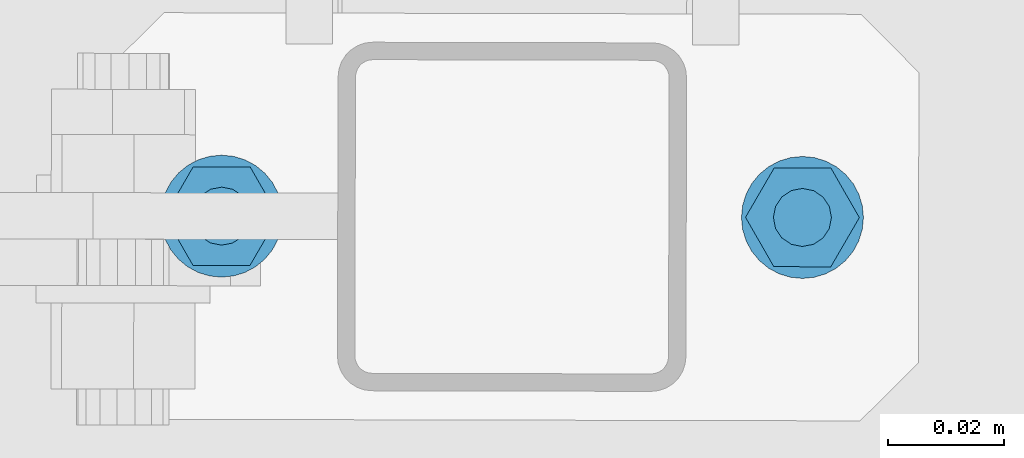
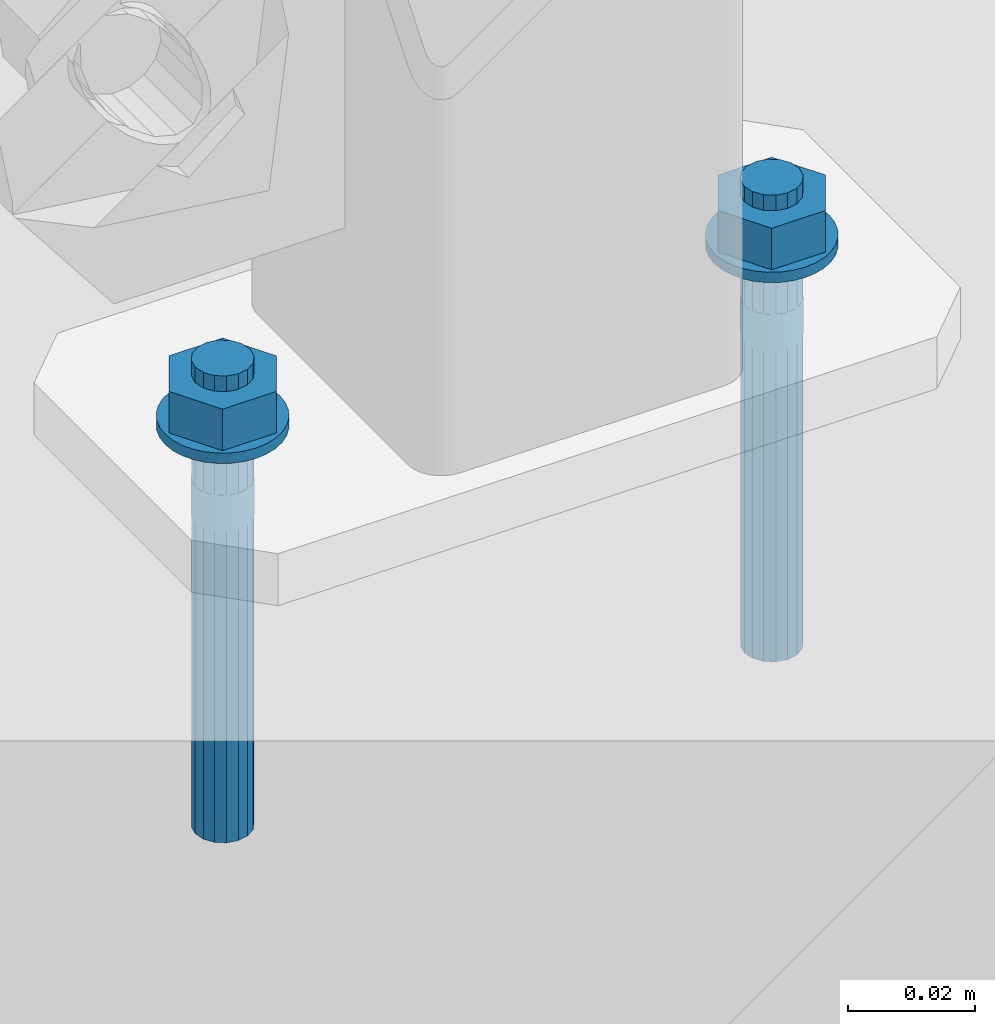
# One storey, part 208 of 288: 2 mechanical fasteners.
"""IFC2X3 building model written with IfcOpenShell, lengths in millimetres."""

from ifc_helpers import new_model, entity, si_unit, converted_unit, origin_with_axes, place, context, project, spatial, faceted_brep, element, save


model = new_model("IFC2X3")

# Units and contexts
model_context = context("Model", 3, precision=1e-09, world=origin_with_axes())
ifc_project = project(units=[si_unit("LENGTHUNIT", "METRE", prefix="MILLI"), si_unit("AREAUNIT", "SQUARE_METRE"), si_unit("VOLUMEUNIT", "CUBIC_METRE"), converted_unit("PLANEANGLEUNIT", "DEGREE", entity("IfcPlaneAngleMeasure", 0.01745329), si_unit("PLANEANGLEUNIT", "RADIAN"), dimensions=[0, 0, 0, 0, 0, 0, 0])], contexts=[model_context])

# Site, building, storey
site_placement = place(None, origin_with_axes())
site = spatial("IfcSite", under=ifc_project, at=site_placement, Name="Remont ?wietlik?w nad MC w NCPP w Opolu", CompositionType="ELEMENT")
building_placement = place(site_placement, origin_with_axes())
building = spatial("IfcBuilding", under=site, at=building_placement, Name="Konstrukcja 1", CompositionType="ELEMENT")
storey_placement = place(building_placement, origin_with_axes())
storey = spatial("IfcBuildingStorey", under=building, at=storey_placement, Name="Default Storey", CompositionType="ELEMENT", Elevation=0.0)

# Mechanical fasteners
mechanical_fastener_1_placement = place(None, origin_with_axes())
element("IfcMechanicalFastener", 1, at=mechanical_fastener_1_placement, inside=storey, ObjectType="Anchor_Bolt", NominalDiameter=10.0, NominalLength=90.0, context=model_context, shape_type="Brep", body=[
    faceted_brep([(7066.299040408, -130.431024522, 12.00000014), (7066.299040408, -130.431024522, 10.00000014), (7064.250140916, -130.628145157, 10.00000014), (7064.250140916, -130.628145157, 12.00000014), (7062.279066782, -131.221198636, 10.00000014), (7062.279066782, -131.221198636, 12.00000014), (7060.461565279, -132.187394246, 10.00000014), (7060.461565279, -132.187394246, 12.00000014), (7058.867481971, -133.489601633, 10.00000014), (7058.867481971, -133.489601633, 12.00000014), (7057.558076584, -135.077777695, 10.00000014), (7057.558076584, -135.077777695, 12.00000014), (7056.583668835, -136.890889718, 10.00000014), (7056.583668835, -136.890889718, 12.00000014), (7055.981704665, -138.859260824, 10.00000014), (7055.981704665, -138.859260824, 12.00000014), (7055.775317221, -140.907247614, 10.00000014), (7055.775317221, -140.907247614, 12.00000014), (7055.972437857, -142.956147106, 10.00000014), (7055.972437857, -142.956147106, 12.00000014), (7056.565491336, -144.92722124, 10.00000014), (7056.565491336, -144.92722124, 12.00000014), (7057.531686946, -146.744722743, 10.00000014), (7057.531686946, -146.744722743, 12.00000014), (7058.833894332, -148.338806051, 10.00000014), (7058.833894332, -148.338806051, 12.00000014), (7060.422070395, -149.648211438, 10.00000014), (7060.422070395, -149.648211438, 12.00000014), (7062.235182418, -150.622619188, 10.00000014), (7062.235182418, -150.622619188, 12.00000014), (7064.203553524, -151.224583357, 10.00000014), (7064.203553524, -151.224583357, 12.00000014), (7066.251540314, -151.430970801, 10.00000014), (7066.251540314, -151.430970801, 12.00000014), (7068.300439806, -151.233850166, 10.00000014), (7068.300439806, -151.233850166, 12.00000014), (7070.27151394, -150.640796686, 10.00000014), (7070.27151394, -150.640796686, 12.00000014), (7072.089015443, -149.674601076, 10.00000014), (7072.089015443, -149.674601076, 12.00000014), (7073.683098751, -148.37239369, 10.00000014), (7073.683098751, -148.37239369, 12.00000014), (7074.992504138, -146.784217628, 10.00000014), (7074.992504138, -146.784217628, 12.00000014), (7075.966911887, -144.971105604, 10.00000014), (7075.966911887, -144.971105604, 12.00000014), (7076.568876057, -143.002734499, 10.00000014), (7076.568876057, -143.002734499, 12.00000014), (7076.775263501, -140.954747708, 10.00000014), (7076.775263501, -140.954747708, 12.00000014), (7076.578142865, -138.905848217, 10.00000014), (7076.578142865, -138.905848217, 12.00000014), (7075.985089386, -136.934774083, 10.00000014), (7075.985089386, -136.934774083, 12.00000014), (7075.018893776, -135.11727258, 10.00000014), (7075.018893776, -135.11727258, 12.00000014), (7073.71668639, -133.523189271, 10.00000014), (7073.71668639, -133.523189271, 12.00000014), (7072.128510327, -132.213783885, 10.00000014), (7072.128510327, -132.213783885, 12.00000014), (7070.315398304, -131.239376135, 10.00000014), (7070.315398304, -131.239376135, 12.00000014), (7068.347027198, -130.637411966, 10.00000014), (7068.347027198, -130.637411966, 12.00000014)], [[[0, 1, 2, 3]], [[3, 2, 4, 5]], [[5, 4, 6, 7]], [[7, 6, 8, 9]], [[9, 8, 10, 11]], [[11, 10, 12, 13]], [[13, 12, 14, 15]], [[15, 14, 16, 17]], [[17, 16, 18, 19]], [[19, 18, 20, 21]], [[21, 20, 22, 23]], [[23, 22, 24, 25]], [[25, 24, 26, 27]], [[27, 26, 28, 29]], [[29, 28, 30, 31]], [[31, 30, 32, 33]], [[33, 32, 34, 35]], [[35, 34, 36, 37]], [[37, 36, 38, 39]], [[39, 38, 40, 41]], [[41, 40, 42, 43]], [[43, 42, 44, 45]], [[45, 44, 46, 47]], [[47, 46, 48, 49]], [[49, 48, 50, 51]], [[51, 50, 52, 53]], [[53, 52, 54, 55]], [[55, 54, 56, 57]], [[57, 56, 58, 59]], [[59, 58, 60, 61]], [[61, 60, 62, 63]], [[63, 62, 1, 0]], [[0, 3, 5, 7, 9, 11, 13, 15, 17, 19, 21, 23, 25, 27, 29, 31, 33, 35, 37, 39, 41, 43, 45, 47, 49, 51, 53, 55, 57, 59, 61, 63]], [[1, 62, 60, 58, 56, 54, 52, 50, 48, 46, 44, 42, 40, 38, 36, 34, 32, 30, 28, 26, 24, 22, 20, 18, 16, 14, 12, 10, 8, 6, 4, 2]]]),
    faceted_brep([(7061.356105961, -149.406941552, 12.00000014), (7061.356105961, -149.406941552, 20.00000014), (7056.475315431, -140.908830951, 20.00000014), (7056.475315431, -140.908830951, 12.00000014), (7061.39449983, -132.43288706, 20.00000014), (7061.39449983, -132.43288706, 12.00000014), (7071.194474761, -132.45505377, 20.00000014), (7071.194474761, -132.45505377, 12.00000014), (7076.075265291, -140.953164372, 20.00000014), (7076.075265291, -140.953164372, 12.00000014), (7071.156080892, -149.429108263, 20.00000014), (7071.156080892, -149.429108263, 12.00000014)], [[[0, 1, 2, 3]], [[3, 2, 4, 5]], [[5, 4, 6, 7]], [[7, 6, 8, 9]], [[9, 8, 10, 11]], [[11, 10, 1, 0]], [[4, 2, 1, 10, 8, 6]], [[0, 3, 5, 7, 9, 11]]]),
    faceted_brep([(7066.286599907, -135.931010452, 23.00000014), (7066.286599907, -135.931010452, 20.00000014), (7064.372326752, -136.30728384, 20.00000014), (7064.372326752, -136.30728384, 23.00000014), (7062.747762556, -137.387475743, 20.00000014), (7062.747762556, -137.387475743, 23.00000014), (7061.660232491, -139.007136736, 20.00000014), (7061.660232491, -139.007136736, 23.00000014), (7061.275303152, -140.919688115, 20.00000014), (7061.275303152, -140.919688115, 23.00000014), (7061.651576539, -142.83396127, 20.00000014), (7061.651576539, -142.83396127, 23.00000014), (7062.731768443, -144.458525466, 20.00000014), (7062.731768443, -144.458525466, 23.00000014), (7064.351429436, -145.546055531, 20.00000014), (7064.351429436, -145.546055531, 23.00000014), (7066.263980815, -145.930984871, 20.00000014), (7066.263980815, -145.930984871, 23.00000014), (7068.17825397, -145.554711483, 20.00000014), (7068.17825397, -145.554711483, 23.00000014), (7069.802818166, -144.47451958, 20.00000014), (7069.802818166, -144.47451958, 23.00000014), (7070.890348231, -142.854858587, 20.00000014), (7070.890348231, -142.854858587, 23.00000014), (7071.27527757, -140.942307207, 20.00000014), (7071.27527757, -140.942307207, 23.00000014), (7070.899004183, -139.028034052, 20.00000014), (7070.899004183, -139.028034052, 23.00000014), (7069.818812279, -137.403469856, 20.00000014), (7069.818812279, -137.403469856, 23.00000014), (7068.199151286, -136.315939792, 20.00000014), (7068.199151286, -136.315939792, 23.00000014)], [[[0, 1, 2, 3]], [[3, 2, 4, 5]], [[5, 4, 6, 7]], [[7, 6, 8, 9]], [[9, 8, 10, 11]], [[11, 10, 12, 13]], [[13, 12, 14, 15]], [[15, 14, 16, 17]], [[17, 16, 18, 19]], [[19, 18, 20, 21]], [[21, 20, 22, 23]], [[23, 22, 24, 25]], [[25, 24, 26, 27]], [[27, 26, 28, 29]], [[29, 28, 30, 31]], [[31, 30, 1, 0]], [[0, 3, 5, 7, 9, 11, 13, 15, 17, 19, 21, 23, 25, 27, 29, 31]], [[1, 30, 28, 26, 24, 22, 20, 18, 16, 14, 12, 10, 8, 6, 4, 2]]]),
    faceted_brep([(7066.286599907, -135.931010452, 10.000000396), (7066.286599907, -135.931010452, 1.4e-07), (7064.372326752, -136.30728384, 1.4e-07), (7064.372326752, -136.30728384, 10.000000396), (7062.747762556, -137.387475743, 1.4e-07), (7062.747762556, -137.387475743, 10.000000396), (7061.660232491, -139.007136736, 1.4e-07), (7061.660232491, -139.007136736, 10.000000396), (7061.275303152, -140.919688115, 1.4e-07), (7061.275303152, -140.919688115, 10.000000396), (7061.651576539, -142.83396127, 1.4e-07), (7061.651576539, -142.83396127, 10.000000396), (7062.731768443, -144.458525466, 1.4e-07), (7062.731768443, -144.458525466, 10.000000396), (7064.351429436, -145.546055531, 1.4e-07), (7064.351429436, -145.546055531, 10.000000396), (7066.263980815, -145.930984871, 1.4e-07), (7066.263980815, -145.930984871, 10.000000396), (7068.17825397, -145.554711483, 1.4e-07), (7068.17825397, -145.554711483, 10.000000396), (7069.802818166, -144.47451958, 1.4e-07), (7069.802818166, -144.47451958, 10.000000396), (7070.890348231, -142.854858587, 1.4e-07), (7070.890348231, -142.854858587, 10.000000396), (7071.27527757, -140.942307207, 1.4e-07), (7071.27527757, -140.942307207, 10.000000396), (7070.899004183, -139.028034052, 1.4e-07), (7070.899004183, -139.028034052, 10.000000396), (7069.818812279, -137.403469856, 1.4e-07), (7069.818812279, -137.403469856, 10.000000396), (7068.199151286, -136.315939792, 1.4e-07), (7068.199151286, -136.315939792, 10.000000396)], [[[0, 1, 2, 3]], [[3, 2, 4, 5]], [[5, 4, 6, 7]], [[7, 6, 8, 9]], [[9, 8, 10, 11]], [[11, 10, 12, 13]], [[13, 12, 14, 15]], [[15, 14, 16, 17]], [[17, 16, 18, 19]], [[19, 18, 20, 21]], [[21, 20, 22, 23]], [[23, 22, 24, 25]], [[25, 24, 26, 27]], [[27, 26, 28, 29]], [[29, 28, 30, 31]], [[31, 30, 1, 0]], [[0, 3, 5, 7, 9, 11, 13, 15, 17, 19, 21, 23, 25, 27, 29, 31]], [[1, 30, 28, 26, 24, 22, 20, 18, 16, 14, 12, 10, 8, 6, 4, 2]]]),
    faceted_brep([(7066.286599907, -135.931010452, -1.16e-07), (7066.286599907, -135.931010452, -6.99999986), (7065.310933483, -136.024877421, -6.99999986), (7065.310933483, -136.024877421, -1.16e-07), (7064.372326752, -136.30728384, -6.99999986), (7064.372326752, -136.30728384, -1.16e-07), (7063.506849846, -136.767376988, -6.99999986), (7063.506849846, -136.767376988, -1.16e-07), (7062.747762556, -137.387475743, -6.99999986), (7062.747762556, -137.387475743, -1.16e-07), (7062.124236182, -138.143750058, -6.99999986), (7062.124236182, -138.143750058, -1.16e-07), (7061.660232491, -139.007136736, -6.99999986), (7061.660232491, -139.007136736, -1.16e-07), (7061.373582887, -139.94445631, -6.99999986), (7061.373582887, -139.94445631, -1.16e-07), (7061.275303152, -140.919688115, -6.99999986), (7061.275303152, -140.919688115, -1.16e-07), (7061.369170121, -141.89535454, -6.99999986), (7061.369170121, -141.89535454, -1.16e-07), (7061.651576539, -142.83396127, -6.99999986), (7061.651576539, -142.83396127, -1.16e-07), (7062.111669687, -143.699438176, -6.99999986), (7062.111669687, -143.699438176, -1.16e-07), (7062.731768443, -144.458525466, -6.99999986), (7062.731768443, -144.458525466, -1.16e-07), (7063.488042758, -145.082051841, -6.99999986), (7063.488042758, -145.082051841, -1.16e-07), (7064.351429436, -145.546055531, -6.99999986), (7064.351429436, -145.546055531, -1.16e-07), (7065.28874901, -145.832705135, -6.99999986), (7065.28874901, -145.832705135, -1.16e-07), (7066.263980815, -145.930984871, -6.99999986), (7066.263980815, -145.930984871, -1.16e-07), (7067.239647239, -145.837117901, -6.99999986), (7067.239647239, -145.837117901, -1.16e-07), (7068.17825397, -145.554711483, -6.99999986), (7068.17825397, -145.554711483, -1.16e-07), (7069.043730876, -145.094618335, -6.99999986), (7069.043730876, -145.094618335, -1.16e-07), (7069.802818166, -144.47451958, -6.99999986), (7069.802818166, -144.47451958, -1.16e-07), (7070.42634454, -143.718245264, -6.99999986), (7070.42634454, -143.718245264, -1.16e-07), (7070.890348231, -142.854858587, -6.99999986), (7070.890348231, -142.854858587, -1.16e-07), (7071.176997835, -141.917539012, -6.99999986), (7071.176997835, -141.917539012, -1.16e-07), (7071.27527757, -140.942307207, -6.99999986), (7071.27527757, -140.942307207, -1.16e-07), (7071.181410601, -139.966640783, -6.99999986), (7071.181410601, -139.966640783, -1.16e-07), (7070.899004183, -139.028034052, -6.99999986), (7070.899004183, -139.028034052, -1.16e-07), (7070.438911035, -138.162557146, -6.99999986), (7070.438911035, -138.162557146, -1.16e-07), (7069.818812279, -137.403469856, -6.99999986), (7069.818812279, -137.403469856, -1.16e-07), (7069.062537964, -136.779943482, -6.99999986), (7069.062537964, -136.779943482, -1.16e-07), (7068.199151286, -136.315939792, -6.99999986), (7068.199151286, -136.315939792, -1.16e-07), (7067.261831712, -136.029290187, -6.99999986), (7067.261831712, -136.029290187, -1.16e-07)], [[[0, 1, 2, 3]], [[3, 2, 4, 5]], [[5, 4, 6, 7]], [[7, 6, 8, 9]], [[9, 8, 10, 11]], [[11, 10, 12, 13]], [[13, 12, 14, 15]], [[15, 14, 16, 17]], [[17, 16, 18, 19]], [[19, 18, 20, 21]], [[21, 20, 22, 23]], [[23, 22, 24, 25]], [[25, 24, 26, 27]], [[27, 26, 28, 29]], [[29, 28, 30, 31]], [[31, 30, 32, 33]], [[33, 32, 34, 35]], [[35, 34, 36, 37]], [[37, 36, 38, 39]], [[39, 38, 40, 41]], [[41, 40, 42, 43]], [[43, 42, 44, 45]], [[45, 44, 46, 47]], [[47, 46, 48, 49]], [[49, 48, 50, 51]], [[51, 50, 52, 53]], [[53, 52, 54, 55]], [[55, 54, 56, 57]], [[57, 56, 58, 59]], [[59, 58, 60, 61]], [[61, 60, 62, 63]], [[63, 62, 1, 0]], [[0, 3, 5, 7, 9, 11, 13, 15, 17, 19, 21, 23, 25, 27, 29, 31, 33, 35, 37, 39, 41, 43, 45, 47, 49, 51, 53, 55, 57, 59, 61, 63]], [[1, 62, 60, 58, 56, 54, 52, 50, 48, 46, 44, 42, 40, 38, 36, 34, 32, 30, 28, 26, 24, 22, 20, 18, 16, 14, 12, 10, 8, 6, 4, 2]]]),
    faceted_brep([(7066.286599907, -135.931010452, -6.99999986), (7066.286599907, -135.931010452, -66.99999986), (7064.372326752, -136.30728384, -66.99999986), (7064.372326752, -136.30728384, -6.99999986), (7062.747762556, -137.387475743, -66.99999986), (7062.747762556, -137.387475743, -6.99999986), (7061.660232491, -139.007136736, -66.99999986), (7061.660232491, -139.007136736, -6.99999986), (7061.275303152, -140.919688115, -66.99999986), (7061.275303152, -140.919688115, -6.99999986), (7061.651576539, -142.83396127, -66.99999986), (7061.651576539, -142.83396127, -6.99999986), (7062.731768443, -144.458525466, -66.99999986), (7062.731768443, -144.458525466, -6.99999986), (7064.351429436, -145.546055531, -66.99999986), (7064.351429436, -145.546055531, -6.99999986), (7066.263980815, -145.930984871, -66.99999986), (7066.263980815, -145.930984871, -6.99999986), (7068.17825397, -145.554711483, -66.99999986), (7068.17825397, -145.554711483, -6.99999986), (7069.802818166, -144.47451958, -66.99999986), (7069.802818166, -144.47451958, -6.99999986), (7070.890348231, -142.854858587, -66.99999986), (7070.890348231, -142.854858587, -6.99999986), (7071.27527757, -140.942307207, -66.99999986), (7071.27527757, -140.942307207, -6.99999986), (7070.899004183, -139.028034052, -66.99999986), (7070.899004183, -139.028034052, -6.99999986), (7069.818812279, -137.403469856, -66.99999986), (7069.818812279, -137.403469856, -6.99999986), (7068.199151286, -136.315939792, -66.99999986), (7068.199151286, -136.315939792, -6.99999986)], [[[0, 1, 2, 3]], [[3, 2, 4, 5]], [[5, 4, 6, 7]], [[7, 6, 8, 9]], [[9, 8, 10, 11]], [[11, 10, 12, 13]], [[13, 12, 14, 15]], [[15, 14, 16, 17]], [[17, 16, 18, 19]], [[19, 18, 20, 21]], [[21, 20, 22, 23]], [[23, 22, 24, 25]], [[25, 24, 26, 27]], [[27, 26, 28, 29]], [[29, 28, 30, 31]], [[31, 30, 1, 0]], [[0, 3, 5, 7, 9, 11, 13, 15, 17, 19, 21, 23, 25, 27, 29, 31]], [[1, 30, 28, 26, 24, 22, 20, 18, 16, 14, 12, 10, 8, 6, 4, 2]]]),
])
mechanical_fastener_2_placement = place(None, origin_with_axes())
element("IfcMechanicalFastener", 2, at=mechanical_fastener_2_placement, inside=storey, ObjectType="Anchor_Bolt", NominalDiameter=10.0, NominalLength=90.0, context=model_context, shape_type="Brep", body=[
    faceted_brep([(6966.29929622, -130.204833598, 12.00000014), (6966.29929622, -130.204833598, 10.00000014), (6964.250396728, -130.401954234, 10.00000014), (6964.250396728, -130.401954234, 12.00000014), (6962.279322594, -130.995007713, 10.00000014), (6962.279322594, -130.995007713, 12.00000014), (6960.461821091, -131.961203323, 10.00000014), (6960.461821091, -131.961203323, 12.00000014), (6958.867737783, -133.263410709, 10.00000014), (6958.867737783, -133.263410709, 12.00000014), (6957.558332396, -134.851586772, 10.00000014), (6957.558332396, -134.851586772, 12.00000014), (6956.583924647, -136.664698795, 10.00000014), (6956.583924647, -136.664698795, 12.00000014), (6955.981960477, -138.633069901, 10.00000014), (6955.981960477, -138.633069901, 12.00000014), (6955.775573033, -140.681056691, 10.00000014), (6955.775573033, -140.681056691, 12.00000014), (6955.972693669, -142.729956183, 10.00000014), (6955.972693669, -142.729956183, 12.00000014), (6956.565747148, -144.701030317, 10.00000014), (6956.565747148, -144.701030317, 12.00000014), (6957.531942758, -146.51853182, 10.00000014), (6957.531942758, -146.51853182, 12.00000014), (6958.834150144, -148.112615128, 10.00000014), (6958.834150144, -148.112615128, 12.00000014), (6960.422326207, -149.422020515, 10.00000014), (6960.422326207, -149.422020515, 12.00000014), (6962.23543823, -150.396428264, 10.00000014), (6962.23543823, -150.396428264, 12.00000014), (6964.203809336, -150.998392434, 10.00000014), (6964.203809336, -150.998392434, 12.00000014), (6966.251796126, -151.204779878, 10.00000014), (6966.251796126, -151.204779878, 12.00000014), (6968.300695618, -151.007659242, 10.00000014), (6968.300695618, -151.007659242, 12.00000014), (6970.271769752, -150.414605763, 10.00000014), (6970.271769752, -150.414605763, 12.00000014), (6972.089271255, -149.448410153, 10.00000014), (6972.089271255, -149.448410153, 12.00000014), (6973.683354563, -148.146202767, 10.00000014), (6973.683354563, -148.146202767, 12.00000014), (6974.99275995, -146.558026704, 10.00000014), (6974.99275995, -146.558026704, 12.00000014), (6975.967167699, -144.744914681, 10.00000014), (6975.967167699, -144.744914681, 12.00000014), (6976.569131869, -142.776543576, 10.00000014), (6976.569131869, -142.776543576, 12.00000014), (6976.775519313, -140.728556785, 10.00000014), (6976.775519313, -140.728556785, 12.00000014), (6976.578398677, -138.679657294, 10.00000014), (6976.578398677, -138.679657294, 12.00000014), (6975.985345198, -136.70858316, 10.00000014), (6975.985345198, -136.70858316, 12.00000014), (6975.019149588, -134.891081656, 10.00000014), (6975.019149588, -134.891081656, 12.00000014), (6973.716942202, -133.296998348, 10.00000014), (6973.716942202, -133.296998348, 12.00000014), (6972.128766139, -131.987592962, 10.00000014), (6972.128766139, -131.987592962, 12.00000014), (6970.315654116, -131.013185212, 10.00000014), (6970.315654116, -131.013185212, 12.00000014), (6968.34728301, -130.411221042, 10.00000014), (6968.34728301, -130.411221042, 12.00000014)], [[[0, 1, 2, 3]], [[3, 2, 4, 5]], [[5, 4, 6, 7]], [[7, 6, 8, 9]], [[9, 8, 10, 11]], [[11, 10, 12, 13]], [[13, 12, 14, 15]], [[15, 14, 16, 17]], [[17, 16, 18, 19]], [[19, 18, 20, 21]], [[21, 20, 22, 23]], [[23, 22, 24, 25]], [[25, 24, 26, 27]], [[27, 26, 28, 29]], [[29, 28, 30, 31]], [[31, 30, 32, 33]], [[33, 32, 34, 35]], [[35, 34, 36, 37]], [[37, 36, 38, 39]], [[39, 38, 40, 41]], [[41, 40, 42, 43]], [[43, 42, 44, 45]], [[45, 44, 46, 47]], [[47, 46, 48, 49]], [[49, 48, 50, 51]], [[51, 50, 52, 53]], [[53, 52, 54, 55]], [[55, 54, 56, 57]], [[57, 56, 58, 59]], [[59, 58, 60, 61]], [[61, 60, 62, 63]], [[63, 62, 1, 0]], [[0, 3, 5, 7, 9, 11, 13, 15, 17, 19, 21, 23, 25, 27, 29, 31, 33, 35, 37, 39, 41, 43, 45, 47, 49, 51, 53, 55, 57, 59, 61, 63]], [[1, 62, 60, 58, 56, 54, 52, 50, 48, 46, 44, 42, 40, 38, 36, 34, 32, 30, 28, 26, 24, 22, 20, 18, 16, 14, 12, 10, 8, 6, 4, 2]]]),
    faceted_brep([(6961.356361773, -149.180750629, 12.00000014), (6961.356361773, -149.180750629, 20.00000014), (6956.475571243, -140.682640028, 20.00000014), (6956.475571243, -140.682640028, 12.00000014), (6961.394755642, -132.206696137, 20.00000014), (6961.394755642, -132.206696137, 12.00000014), (6971.194730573, -132.228862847, 20.00000014), (6971.194730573, -132.228862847, 12.00000014), (6976.075521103, -140.726973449, 20.00000014), (6976.075521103, -140.726973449, 12.00000014), (6971.156336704, -149.20291734, 20.00000014), (6971.156336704, -149.20291734, 12.00000014)], [[[0, 1, 2, 3]], [[3, 2, 4, 5]], [[5, 4, 6, 7]], [[7, 6, 8, 9]], [[9, 8, 10, 11]], [[11, 10, 1, 0]], [[4, 2, 1, 10, 8, 6]], [[0, 3, 5, 7, 9, 11]]]),
    faceted_brep([(6966.286855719, -135.704819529, 23.00000014), (6966.286855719, -135.704819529, 20.00000014), (6964.372582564, -136.081092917, 20.00000014), (6964.372582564, -136.081092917, 23.00000014), (6962.748018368, -137.16128482, 20.00000014), (6962.748018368, -137.16128482, 23.00000014), (6961.660488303, -138.780945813, 20.00000014), (6961.660488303, -138.780945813, 23.00000014), (6961.275558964, -140.693497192, 20.00000014), (6961.275558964, -140.693497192, 23.00000014), (6961.651832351, -142.607770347, 20.00000014), (6961.651832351, -142.607770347, 23.00000014), (6962.732024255, -144.232334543, 20.00000014), (6962.732024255, -144.232334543, 23.00000014), (6964.351685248, -145.319864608, 20.00000014), (6964.351685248, -145.319864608, 23.00000014), (6966.264236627, -145.704793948, 20.00000014), (6966.264236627, -145.704793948, 23.00000014), (6968.178509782, -145.32852056, 20.00000014), (6968.178509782, -145.32852056, 23.00000014), (6969.803073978, -144.248328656, 20.00000014), (6969.803073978, -144.248328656, 23.00000014), (6970.890604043, -142.628667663, 20.00000014), (6970.890604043, -142.628667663, 23.00000014), (6971.275533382, -140.716116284, 20.00000014), (6971.275533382, -140.716116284, 23.00000014), (6970.899259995, -138.801843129, 20.00000014), (6970.899259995, -138.801843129, 23.00000014), (6969.819068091, -137.177278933, 20.00000014), (6969.819068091, -137.177278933, 23.00000014), (6968.199407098, -136.089748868, 20.00000014), (6968.199407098, -136.089748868, 23.00000014)], [[[0, 1, 2, 3]], [[3, 2, 4, 5]], [[5, 4, 6, 7]], [[7, 6, 8, 9]], [[9, 8, 10, 11]], [[11, 10, 12, 13]], [[13, 12, 14, 15]], [[15, 14, 16, 17]], [[17, 16, 18, 19]], [[19, 18, 20, 21]], [[21, 20, 22, 23]], [[23, 22, 24, 25]], [[25, 24, 26, 27]], [[27, 26, 28, 29]], [[29, 28, 30, 31]], [[31, 30, 1, 0]], [[0, 3, 5, 7, 9, 11, 13, 15, 17, 19, 21, 23, 25, 27, 29, 31]], [[1, 30, 28, 26, 24, 22, 20, 18, 16, 14, 12, 10, 8, 6, 4, 2]]]),
    faceted_brep([(6966.286855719, -135.704819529, 10.000000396), (6966.286855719, -135.704819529, 1.4e-07), (6964.372582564, -136.081092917, 1.4e-07), (6964.372582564, -136.081092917, 10.000000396), (6962.748018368, -137.16128482, 1.4e-07), (6962.748018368, -137.16128482, 10.000000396), (6961.660488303, -138.780945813, 1.4e-07), (6961.660488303, -138.780945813, 10.000000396), (6961.275558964, -140.693497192, 1.4e-07), (6961.275558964, -140.693497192, 10.000000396), (6961.651832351, -142.607770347, 1.4e-07), (6961.651832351, -142.607770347, 10.000000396), (6962.732024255, -144.232334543, 1.4e-07), (6962.732024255, -144.232334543, 10.000000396), (6964.351685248, -145.319864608, 1.4e-07), (6964.351685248, -145.319864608, 10.000000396), (6966.264236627, -145.704793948, 1.4e-07), (6966.264236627, -145.704793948, 10.000000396), (6968.178509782, -145.32852056, 1.4e-07), (6968.178509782, -145.32852056, 10.000000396), (6969.803073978, -144.248328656, 1.4e-07), (6969.803073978, -144.248328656, 10.000000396), (6970.890604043, -142.628667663, 1.4e-07), (6970.890604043, -142.628667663, 10.000000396), (6971.275533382, -140.716116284, 1.4e-07), (6971.275533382, -140.716116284, 10.000000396), (6970.899259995, -138.801843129, 1.4e-07), (6970.899259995, -138.801843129, 10.000000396), (6969.819068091, -137.177278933, 1.4e-07), (6969.819068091, -137.177278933, 10.000000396), (6968.199407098, -136.089748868, 1.4e-07), (6968.199407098, -136.089748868, 10.000000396)], [[[0, 1, 2, 3]], [[3, 2, 4, 5]], [[5, 4, 6, 7]], [[7, 6, 8, 9]], [[9, 8, 10, 11]], [[11, 10, 12, 13]], [[13, 12, 14, 15]], [[15, 14, 16, 17]], [[17, 16, 18, 19]], [[19, 18, 20, 21]], [[21, 20, 22, 23]], [[23, 22, 24, 25]], [[25, 24, 26, 27]], [[27, 26, 28, 29]], [[29, 28, 30, 31]], [[31, 30, 1, 0]], [[0, 3, 5, 7, 9, 11, 13, 15, 17, 19, 21, 23, 25, 27, 29, 31]], [[1, 30, 28, 26, 24, 22, 20, 18, 16, 14, 12, 10, 8, 6, 4, 2]]]),
    faceted_brep([(6966.286855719, -135.704819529, -1.16e-07), (6966.286855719, -135.704819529, -6.99999986), (6965.311189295, -135.798686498, -6.99999986), (6965.311189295, -135.798686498, -1.16e-07), (6964.372582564, -136.081092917, -6.99999986), (6964.372582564, -136.081092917, -1.16e-07), (6963.507105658, -136.541186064, -6.99999986), (6963.507105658, -136.541186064, -1.16e-07), (6962.748018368, -137.16128482, -6.99999986), (6962.748018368, -137.16128482, -1.16e-07), (6962.124491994, -137.917559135, -6.99999986), (6962.124491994, -137.917559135, -1.16e-07), (6961.660488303, -138.780945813, -6.99999986), (6961.660488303, -138.780945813, -1.16e-07), (6961.373838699, -139.718265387, -6.99999986), (6961.373838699, -139.718265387, -1.16e-07), (6961.275558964, -140.693497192, -6.99999986), (6961.275558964, -140.693497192, -1.16e-07), (6961.369425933, -141.669163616, -6.99999986), (6961.369425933, -141.669163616, -1.16e-07), (6961.651832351, -142.607770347, -6.99999986), (6961.651832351, -142.607770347, -1.16e-07), (6962.111925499, -143.473247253, -6.99999986), (6962.111925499, -143.473247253, -1.16e-07), (6962.732024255, -144.232334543, -6.99999986), (6962.732024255, -144.232334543, -1.16e-07), (6963.48829857, -144.855860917, -6.99999986), (6963.48829857, -144.855860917, -1.16e-07), (6964.351685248, -145.319864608, -6.99999986), (6964.351685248, -145.319864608, -1.16e-07), (6965.289004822, -145.606514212, -6.99999986), (6965.289004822, -145.606514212, -1.16e-07), (6966.264236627, -145.704793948, -6.99999986), (6966.264236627, -145.704793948, -1.16e-07), (6967.239903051, -145.610926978, -6.99999986), (6967.239903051, -145.610926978, -1.16e-07), (6968.178509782, -145.32852056, -6.99999986), (6968.178509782, -145.32852056, -1.16e-07), (6969.043986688, -144.868427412, -6.99999986), (6969.043986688, -144.868427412, -1.16e-07), (6969.803073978, -144.248328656, -6.99999986), (6969.803073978, -144.248328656, -1.16e-07), (6970.426600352, -143.492054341, -6.99999986), (6970.426600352, -143.492054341, -1.16e-07), (6970.890604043, -142.628667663, -6.99999986), (6970.890604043, -142.628667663, -1.16e-07), (6971.177253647, -141.691348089, -6.99999986), (6971.177253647, -141.691348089, -1.16e-07), (6971.275533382, -140.716116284, -6.99999986), (6971.275533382, -140.716116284, -1.16e-07), (6971.181666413, -139.74044986, -6.99999986), (6971.181666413, -139.74044986, -1.16e-07), (6970.899259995, -138.801843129, -6.99999986), (6970.899259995, -138.801843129, -1.16e-07), (6970.439166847, -137.936366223, -6.99999986), (6970.439166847, -137.936366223, -1.16e-07), (6969.819068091, -137.177278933, -6.99999986), (6969.819068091, -137.177278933, -1.16e-07), (6969.062793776, -136.553752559, -6.99999986), (6969.062793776, -136.553752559, -1.16e-07), (6968.199407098, -136.089748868, -6.99999986), (6968.199407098, -136.089748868, -1.16e-07), (6967.262087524, -135.803099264, -6.99999986), (6967.262087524, -135.803099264, -1.16e-07)], [[[0, 1, 2, 3]], [[3, 2, 4, 5]], [[5, 4, 6, 7]], [[7, 6, 8, 9]], [[9, 8, 10, 11]], [[11, 10, 12, 13]], [[13, 12, 14, 15]], [[15, 14, 16, 17]], [[17, 16, 18, 19]], [[19, 18, 20, 21]], [[21, 20, 22, 23]], [[23, 22, 24, 25]], [[25, 24, 26, 27]], [[27, 26, 28, 29]], [[29, 28, 30, 31]], [[31, 30, 32, 33]], [[33, 32, 34, 35]], [[35, 34, 36, 37]], [[37, 36, 38, 39]], [[39, 38, 40, 41]], [[41, 40, 42, 43]], [[43, 42, 44, 45]], [[45, 44, 46, 47]], [[47, 46, 48, 49]], [[49, 48, 50, 51]], [[51, 50, 52, 53]], [[53, 52, 54, 55]], [[55, 54, 56, 57]], [[57, 56, 58, 59]], [[59, 58, 60, 61]], [[61, 60, 62, 63]], [[63, 62, 1, 0]], [[0, 3, 5, 7, 9, 11, 13, 15, 17, 19, 21, 23, 25, 27, 29, 31, 33, 35, 37, 39, 41, 43, 45, 47, 49, 51, 53, 55, 57, 59, 61, 63]], [[1, 62, 60, 58, 56, 54, 52, 50, 48, 46, 44, 42, 40, 38, 36, 34, 32, 30, 28, 26, 24, 22, 20, 18, 16, 14, 12, 10, 8, 6, 4, 2]]]),
    faceted_brep([(6966.286855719, -135.704819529, -6.99999986), (6966.286855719, -135.704819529, -66.99999986), (6964.372582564, -136.081092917, -66.99999986), (6964.372582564, -136.081092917, -6.99999986), (6962.748018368, -137.16128482, -66.99999986), (6962.748018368, -137.16128482, -6.99999986), (6961.660488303, -138.780945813, -66.99999986), (6961.660488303, -138.780945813, -6.99999986), (6961.275558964, -140.693497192, -66.99999986), (6961.275558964, -140.693497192, -6.99999986), (6961.651832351, -142.607770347, -66.99999986), (6961.651832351, -142.607770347, -6.99999986), (6962.732024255, -144.232334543, -66.99999986), (6962.732024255, -144.232334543, -6.99999986), (6964.351685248, -145.319864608, -66.99999986), (6964.351685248, -145.319864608, -6.99999986), (6966.264236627, -145.704793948, -66.99999986), (6966.264236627, -145.704793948, -6.99999986), (6968.178509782, -145.32852056, -66.99999986), (6968.178509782, -145.32852056, -6.99999986), (6969.803073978, -144.248328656, -66.99999986), (6969.803073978, -144.248328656, -6.99999986), (6970.890604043, -142.628667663, -66.99999986), (6970.890604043, -142.628667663, -6.99999986), (6971.275533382, -140.716116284, -66.99999986), (6971.275533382, -140.716116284, -6.99999986), (6970.899259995, -138.801843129, -66.99999986), (6970.899259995, -138.801843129, -6.99999986), (6969.819068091, -137.177278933, -66.99999986), (6969.819068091, -137.177278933, -6.99999986), (6968.199407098, -136.089748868, -66.99999986), (6968.199407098, -136.089748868, -6.99999986)], [[[0, 1, 2, 3]], [[3, 2, 4, 5]], [[5, 4, 6, 7]], [[7, 6, 8, 9]], [[9, 8, 10, 11]], [[11, 10, 12, 13]], [[13, 12, 14, 15]], [[15, 14, 16, 17]], [[17, 16, 18, 19]], [[19, 18, 20, 21]], [[21, 20, 22, 23]], [[23, 22, 24, 25]], [[25, 24, 26, 27]], [[27, 26, 28, 29]], [[29, 28, 30, 31]], [[31, 30, 1, 0]], [[0, 3, 5, 7, 9, 11, 13, 15, 17, 19, 21, 23, 25, 27, 29, 31]], [[1, 30, 28, 26, 24, 22, 20, 18, 16, 14, 12, 10, 8, 6, 4, 2]]]),
])

save(model, "model.ifc")
